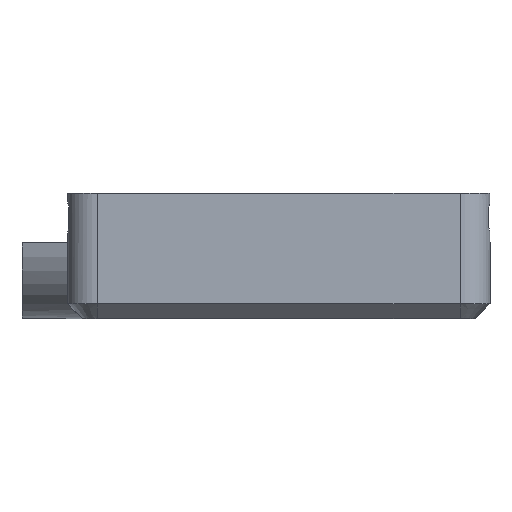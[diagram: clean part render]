
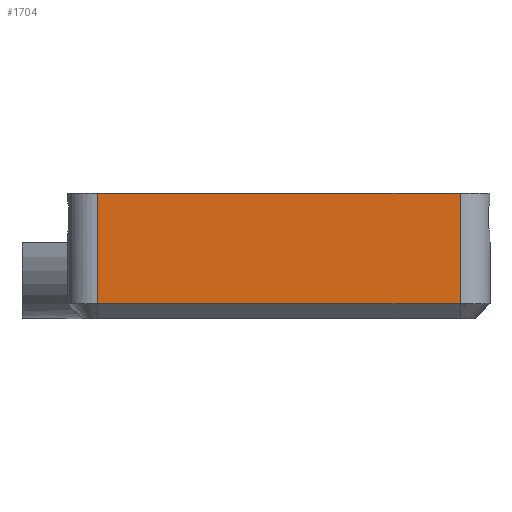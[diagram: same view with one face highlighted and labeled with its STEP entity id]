
A CAD part, front view. The second image highlights one B-rep face of the part: STEP entity #1704.
In plain terms, the highlighted planar face has unit normal (0, -1, 0).
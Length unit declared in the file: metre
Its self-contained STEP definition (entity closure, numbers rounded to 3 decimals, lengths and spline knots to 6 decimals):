
#324=ORIENTED_EDGE('',*,*,#787,.T.);
#325=ORIENTED_EDGE('',*,*,#788,.T.);
#326=ORIENTED_EDGE('',*,*,#789,.T.);
#327=ORIENTED_EDGE('',*,*,#790,.F.);
#787=EDGE_CURVE('',#1011,#1012,#1158,.F.);
#788=EDGE_CURVE('',#1012,#1013,#1159,.T.);
#789=EDGE_CURVE('',#1013,#1014,#1160,.T.);
#790=EDGE_CURVE('',#1011,#1014,#1161,.T.);
#1011=VERTEX_POINT('',#2780);
#1012=VERTEX_POINT('',#2781);
#1013=VERTEX_POINT('',#2783);
#1014=VERTEX_POINT('',#2785);
#1158=LINE('',#2779,#1339);
#1159=LINE('',#2782,#1340);
#1160=LINE('',#2784,#1341);
#1161=LINE('',#2786,#1342);
#1339=VECTOR('',#2218,1.);
#1340=VECTOR('',#2219,1.);
#1341=VECTOR('',#2220,1.);
#1342=VECTOR('',#2221,1.);
#1451=EDGE_LOOP('',(#324,#325,#326,#327));
#1548=FACE_BOUND('',#1451,.T.);
#1633=PLANE('',#1860);
#1704=ADVANCED_FACE('',(#1548),#1633,.F.);
#1860=AXIS2_PLACEMENT_3D('',#2778,#2216,#2217);
#2216=DIRECTION('',(0.,1.,0.));
#2217=DIRECTION('',(0.,0.,1.));
#2218=DIRECTION('',(0.,0.,1.));
#2219=DIRECTION('',(1.,0.,0.));
#2220=DIRECTION('',(0.,0.,1.));
#2221=DIRECTION('',(1.,0.,0.));
#2778=CARTESIAN_POINT('',(-0.232594,-0.0575,-0.002247));
#2779=CARTESIAN_POINT('',(-0.245737,-0.0575,-0.004245));
#2780=CARTESIAN_POINT('',(-0.245737,-0.0575,0.00415));
#2781=CARTESIAN_POINT('',(-0.245737,-0.0575,-0.003245));
#2782=CARTESIAN_POINT('',(-0.22145,-0.0575,-0.003245));
#2783=CARTESIAN_POINT('',(-0.22145,-0.0575,-0.003245));
#2784=CARTESIAN_POINT('',(-0.22145,-0.0575,-0.002247));
#2785=CARTESIAN_POINT('',(-0.22145,-0.0575,0.00415));
#2786=CARTESIAN_POINT('',(-0.250789,-0.0575,0.00415));
